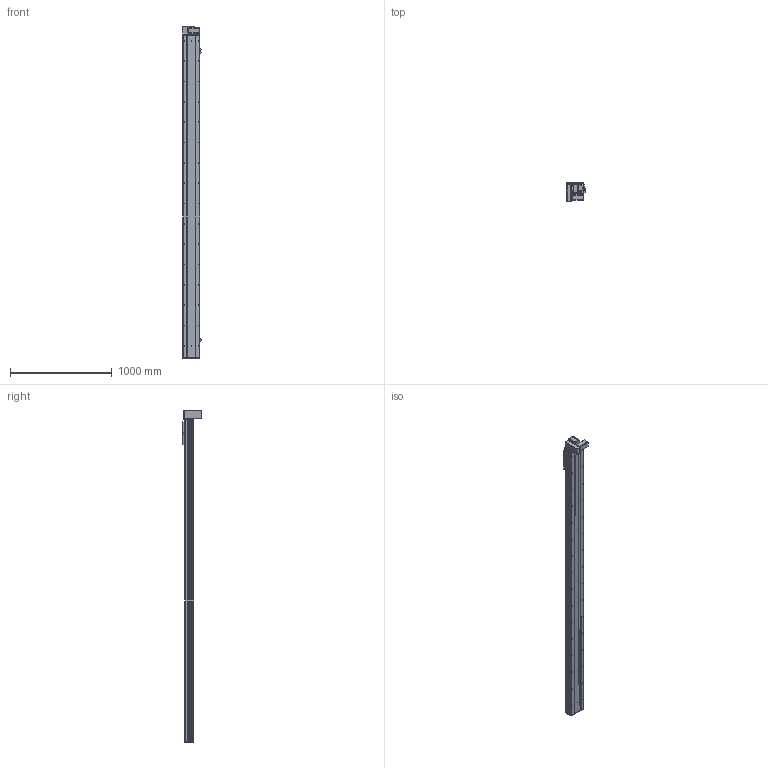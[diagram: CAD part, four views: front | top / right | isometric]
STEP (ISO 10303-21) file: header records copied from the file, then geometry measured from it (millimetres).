
FILE_DESCRIPTION (( 'STEP AP203' ), '1' );
FILE_NAME ('Y170CB-D105-S2850-BM-P400W.STEP', '2020-02-20T07:51:18', ( '微软用户' ), ( '微软中国' ), 'SwSTEP 2.0', 'SolidWorks 2017', '' );
FILE_SCHEMA (( 'CONFIG_CONTROL_DESIGN' ));
Length unit declared in the file: millimetre
Products named in the file (18): 70CB-詩湍--; san松下电机400不带刹车----; Y100-135俋离換覜ん--; 70CB-掛极-; Y170CB-陔俋离換覜結え---; --70CB --喘謫眊楊擘啣-; Y1埴倛裔; 70CB-耜裔啣-; 17B-耜蚾蟀諉啣----; 70C--詩湍揤踡え-; 00B-俋欶BM--163; 70CB--耜裔; 70B喘謫眊----; 70C-雄赽釱-奻-; B-源倛裔啣; Y170CB-D105-S2850-BM-P400W; 0C--雄赽釱俋欶-170; 0B-萇儂楊擘啣
Assembly tree (21 placements, depth 2):
  Y170CB-D105-S2850-BM-P400W
    B-源倛裔啣
    0B-萇儂楊擘啣
    san松下电机400不带刹车----
    70CB-掛极-
    --70CB --喘謫眊楊擘啣-
    70CB-耜裔啣-  x2
    70C--詩湍揤踡え-  x2
    70CB--耜裔
    70C-雄赽釱-奻-
    0C--雄赽釱俋欶-170
    70CB-詩湍--
    Y100-135俋离換覜ん--  x3
    Y170CB-陔俋离換覜結え---
    Y1埴倛裔
    17B-耜蚾蟀諉啣----
    00B-俋欶BM--163
    70B喘謫眊----
Bounding box: 183.5 x 184 x 3266 mm (x, y, z)
Volume: 13823970.1 mm3; surface area: 4995854.4 mm2
Topology: 21 solids, 21 shells, 1079 faces, 2909 edges, 1930 vertices
Faces by surface type: cylinder 593, plane 462, cone 24
Entity records: 34664 total; most frequent: CARTESIAN_POINT 6396, DIRECTION 5642, ORIENTED_EDGE 5300, EDGE_CURVE 2650, AXIS2_PLACEMENT_3D 2088, VERTEX_POINT 1760, VECTOR 1466, LINE 1466
